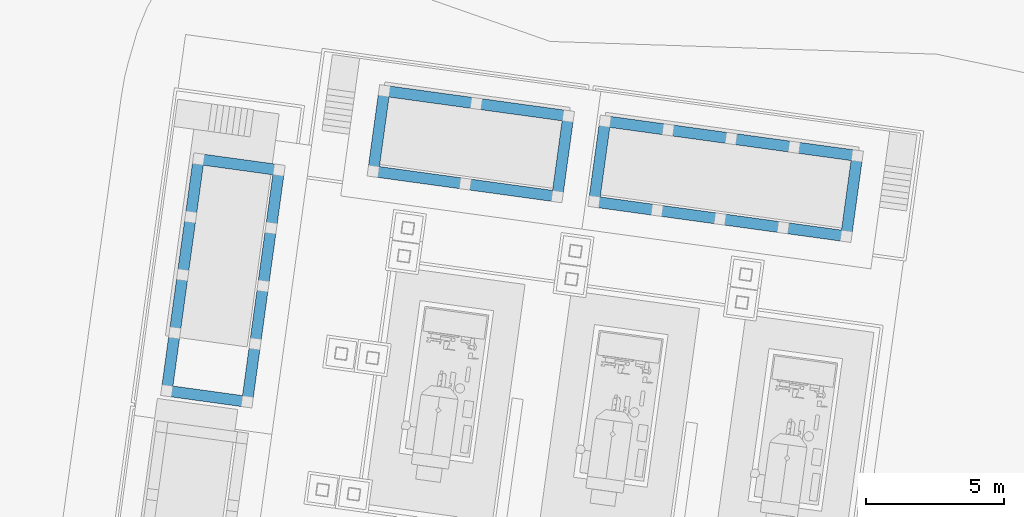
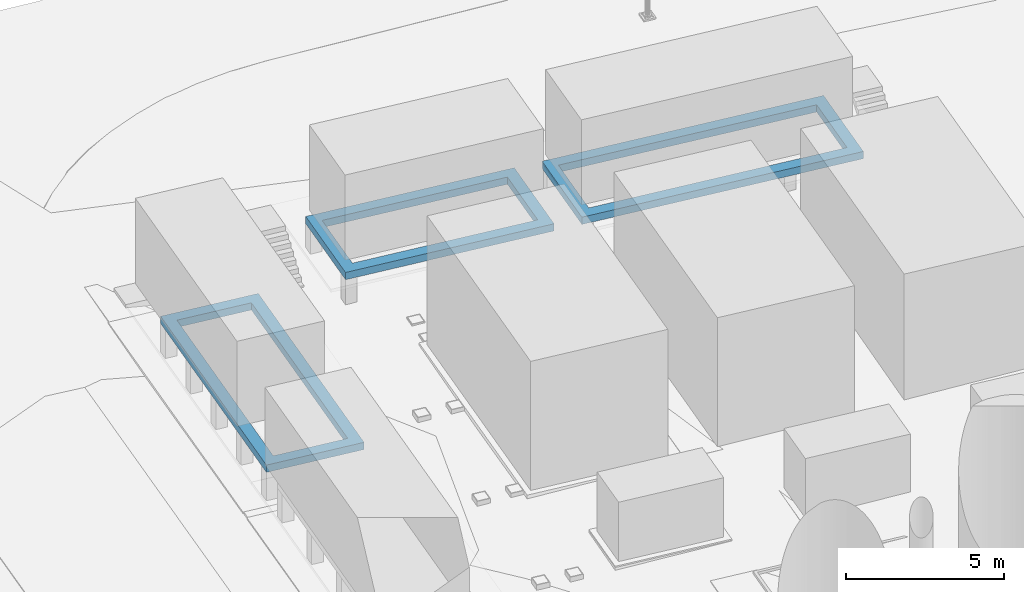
# Not in any storey, part 11 of 75: 3 beams.
"""IFC4 model written with IfcOpenShell, lengths in metres."""

from ifc_helpers import new_model, si_unit, direction, origin, origin_with_axes, place, context, subcontext, project, spatial, triangles, element, save


model = new_model("IFC4")

# Units and contexts
model_context = context("Model", 3, precision=1e-05, world=origin_with_axes(), true_north=direction((0.0, 1.0)))
body_context = subcontext(model_context, "Body", "Model", "MODEL_VIEW")
ifc_project = project(units=[si_unit("AREAUNIT", "SQUARE_METRE"), si_unit("VOLUMEUNIT", "CUBIC_METRE"), si_unit("LENGTHUNIT", "METRE")], contexts=[model_context])

# Site
site_placement = place(None, origin_with_axes())
site = spatial("IfcSite", under=ifc_project, at=site_placement, Name="Parcela industrial Jinhong")

# Beams
beam_1_placement = place(None, origin())
element("IfcBeam", 1, at=beam_1_placement, inside=site, Name="Cimentación y plataforma del módulo LV-CONTAINER · vigas perimetrales VC1 400 × 400 mm", ObjectType="Cimentación industrial", PredefinedType="USERDEFINED", context=body_context, shape_type="Tessellation", body=[
    triangles([(39.833855, 73.626314, 2.2), (40.595316, 82.101582, 2.2), (40.937107, 81.650828, 2.2), (39.383101, 73.284523, 2.2), (43.463343, 81.303508, 2.2), (42.701882, 72.82824, 2.2), (43.914097, 81.645299, 2.2), (42.360091, 73.278994, 2.2), (39.833855, 73.626314, 2.48), (40.595316, 82.101582, 2.48), (40.937107, 81.650828, 2.48), (39.383101, 73.284523, 2.48), (43.463343, 81.303508, 2.48), (42.701882, 72.82824, 2.48), (43.914097, 81.645299, 2.48), (42.360091, 73.278994, 2.48)], [[1, 2, 3], [2, 1, 4], [2, 5, 3], [1, 6, 4], [5, 2, 7], [6, 1, 8], [7, 8, 5], [8, 7, 6], [11, 10, 9], [12, 9, 10], [11, 13, 10], [12, 14, 9], [15, 10, 13], [16, 9, 14], [13, 16, 15], [14, 15, 16], [11, 9, 3], [3, 9, 1], [12, 10, 4], [4, 10, 2], [13, 11, 5], [5, 11, 3], [14, 12, 6], [6, 12, 4], [10, 15, 2], [2, 15, 7], [15, 14, 7], [7, 14, 6], [9, 16, 1], [1, 16, 8], [16, 13, 8], [8, 13, 5]], closed=True),
])
beam_2_placement = place(None, origin())
element("IfcBeam", 2, at=beam_2_placement, inside=site, Name="Cimentación y plataforma del módulo HV-CONTAINER · vigas perimetrales VC1 400 × 400 mm", ObjectType="Cimentación industrial", PredefinedType="USERDEFINED", context=body_context, shape_type="Tessellation", body=[
    triangles([(54.914059, 80.158203, 2.2), (55.712133, 83.026229, 2.2), (55.364813, 80.499993, 2.2), (55.370342, 83.476983, 2.2), (64.479658, 81.820825, 2.2), (64.474129, 78.843835, 2.2), (64.930412, 82.162615, 2.2), (64.132338, 79.294589, 2.2), (54.914059, 80.158203, 2.48), (55.712133, 83.026229, 2.48), (55.364813, 80.499993, 2.48), (55.370342, 83.476983, 2.48), (64.479658, 81.820825, 2.48), (64.474129, 78.843835, 2.48), (64.930412, 82.162615, 2.48), (64.132338, 79.294589, 2.48)], [[1, 2, 3], [2, 1, 4], [5, 2, 4], [6, 1, 3], [5, 4, 7], [6, 3, 8], [6, 5, 7], [5, 6, 8], [11, 10, 9], [12, 9, 10], [12, 10, 13], [11, 9, 14], [15, 12, 13], [16, 11, 14], [15, 13, 14], [16, 14, 13], [10, 11, 2], [2, 11, 3], [9, 12, 1], [1, 12, 4], [13, 10, 5], [5, 10, 2], [14, 9, 6], [6, 9, 1], [12, 15, 4], [4, 15, 7], [15, 14, 7], [7, 14, 6], [11, 16, 3], [3, 16, 8], [16, 13, 8], [8, 13, 5]], closed=True),
])
beam_3_placement = place(None, origin())
element("IfcBeam", 3, at=beam_3_placement, inside=site, Name="Cimentación y plataforma del módulo MV-CONTAINER · vigas perimetrales VC1 400 × 400 mm", ObjectType="Cimentación industrial", PredefinedType="USERDEFINED", context=body_context, shape_type="Tessellation", body=[
    triangles([(46.889049, 81.261522, 2.2), (47.687123, 84.129549, 2.2), (47.339803, 81.603313, 2.2), (47.345332, 84.580303, 2.2), (53.977946, 83.264654, 2.2), (53.972417, 80.287664, 2.2), (54.4287, 83.606445, 2.2), (53.630626, 80.738418, 2.2), (46.889049, 81.261522, 2.48), (47.687123, 84.129549, 2.48), (47.339803, 81.603313, 2.48), (47.345332, 84.580303, 2.48), (53.977946, 83.264654, 2.48), (53.972417, 80.287664, 2.48), (54.4287, 83.606445, 2.48), (53.630626, 80.738418, 2.48)], [[1, 2, 3], [2, 1, 4], [5, 2, 4], [3, 6, 1], [5, 4, 7], [6, 3, 8], [6, 5, 7], [5, 6, 8], [11, 10, 9], [12, 9, 10], [12, 10, 13], [9, 14, 11], [15, 12, 13], [16, 11, 14], [15, 13, 14], [16, 14, 13], [10, 11, 2], [2, 11, 3], [9, 12, 1], [1, 12, 4], [13, 10, 5], [5, 10, 2], [14, 9, 6], [6, 9, 1], [12, 15, 4], [4, 15, 7], [15, 14, 7], [7, 14, 6], [11, 16, 3], [3, 16, 8], [16, 13, 8], [8, 13, 5]], closed=True),
])

save(model, "model.ifc")
